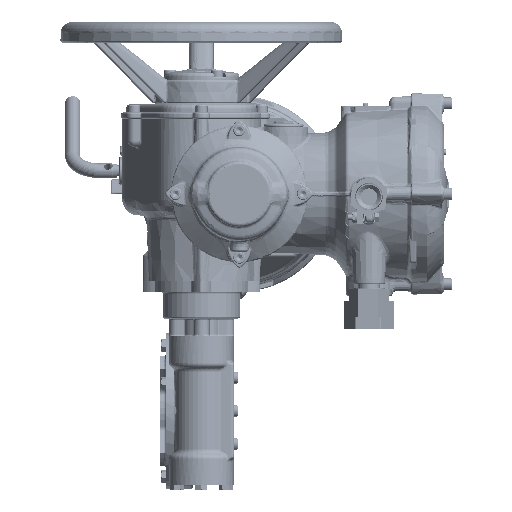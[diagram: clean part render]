
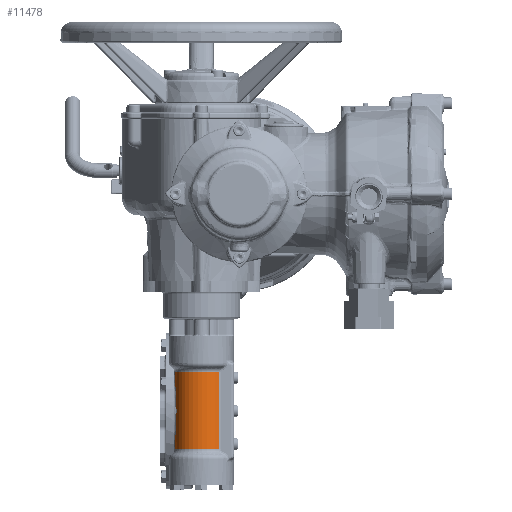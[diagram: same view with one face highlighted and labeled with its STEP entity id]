
A CAD part, left-side view. The second image highlights one B-rep face of the part: STEP entity #11478.
In plain terms, the highlighted cylindrical face has radius 29 mm (diameter 58 mm), a partial arc.
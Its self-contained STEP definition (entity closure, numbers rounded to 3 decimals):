
#11478 = ADVANCED_FACE( '', ( #28881 ), #28882, .T. );
#28881 = FACE_OUTER_BOUND( '', #127493, .T. );
#28882 = CYLINDRICAL_SURFACE( '', #127494, 29. );
#127493 = EDGE_LOOP( '', ( #366551, #366552, #366553, #366554 ) );
#127494 = AXIS2_PLACEMENT_3D( '', #366555, #366556, #366557 );
#366551 = ORIENTED_EDGE( '', *, *, #424406, .F. );
#366552 = ORIENTED_EDGE( '', *, *, #420778, .T. );
#366553 = ORIENTED_EDGE( '', *, *, #424407, .T. );
#366554 = ORIENTED_EDGE( '', *, *, #424408, .T. );
#366555 = CARTESIAN_POINT( '', ( 0., 0., -182.84 ) );
#366556 = DIRECTION( '', ( 0., 0., 1. ) );
#366557 = DIRECTION( '', ( 0., -1., 0. ) );
#420778 = EDGE_CURVE( '', #451515, #451523, #451525, .T. );
#424406 = EDGE_CURVE( '', #451515, #457315, #457316, .T. );
#424407 = EDGE_CURVE( '', #451523, #457317, #457318, .T. );
#424408 = EDGE_CURVE( '', #457317, #457315, #457319, .F. );
#451515 = VERTEX_POINT( '', #529378 );
#451523 = VERTEX_POINT( '', #529470 );
#451525 = B_SPLINE_CURVE_WITH_KNOTS( '', 3, ( #529472, #529473, #529474, #529475, #529476, #529477, #529478, #529479, #529480, #529481, #529482, #529483, #529484, #529485, #529486, #529487, #529488, #529489, #529490, #529491, #529492, #529493, #529494, #529495, #529496, #529497, #529498, #529499, #529500, #529501, #529502, #529503, #529504, #529505, #529506, #529507, #529508, #529509, #529510, #529511, #529512, #529513, #529514, #529515, #529516, #529517, #529518, #529519, #529520, #529521, #529522, #529523, #529524, #529525, #529526, #529527 ), .UNSPECIFIED., .F., .F., ( 4, 2, 2, 2, 2, 1, 1, 1, 1, 1, 2, 1, 1, 2, 2, 1, 1, 1, 1, 1, 1, 1, 1, 1, 1, 1, 2, 2, 2, 1, 1, 1, 1, 1, 1, 2, 2, 2, 2, 4 ), ( 0., 0.003, 0.005, 0.008, 0.011, 0.013, 0.016, 0.019, 0.022, 0.024, 0.027, 0.028, 0.029, 0.029, 0.029, 0.03, 0.032, 0.035, 0.038, 0.04, 0.043, 0.046, 0.049, 0.051, 0.054, 0.057, 0.059, 0.061, 0.061, 0.061, 0.062, 0.065, 0.067, 0.07, 0.073, 0.076, 0.078, 0.081, 0.084, 0.086 ), .UNSPECIFIED. );
#457315 = VERTEX_POINT( '', #557561 );
#457316 = CIRCLE( '', #557562, 29. );
#457317 = VERTEX_POINT( '', #557563 );
#457318 = CIRCLE( '', #557564, 29. );
#457319 = LINE( '', #557565, #557566 );
#529378 = CARTESIAN_POINT( '', ( -1.096, 28.979, -193.232 ) );
#529470 = CARTESIAN_POINT( '', ( -1.096, 28.979, -276.848 ) );
#529472 = CARTESIAN_POINT( '', ( -1.096, 28.979, -193.232 ) );
#529473 = CARTESIAN_POINT( '', ( -1.496, 28.964, -194.05 ) );
#529474 = CARTESIAN_POINT( '', ( -1.883, 28.941, -194.872 ) );
#529475 = CARTESIAN_POINT( '', ( -2.631, 28.883, -196.523 ) );
#529476 = CARTESIAN_POINT( '', ( -2.992, 28.847, -197.352 ) );
#529477 = CARTESIAN_POINT( '', ( -3.688, 28.767, -199.017 ) );
#529478 = CARTESIAN_POINT( '', ( -4.023, 28.721, -199.853 ) );
#529479 = CARTESIAN_POINT( '', ( -4.668, 28.624, -201.533 ) );
#529480 = CARTESIAN_POINT( '', ( -4.979, 28.571, -202.376 ) );
#529481 = CARTESIAN_POINT( '', ( -5.574, 28.461, -204.071 ) );
#529482 = CARTESIAN_POINT( '', ( -6.145, 28.346, -205.772 ) );
#529483 = CARTESIAN_POINT( '', ( -6.927, 28.164, -208.347 ) );
#529484 = CARTESIAN_POINT( '', ( -7.636, 27.979, -210.943 ) );
#529485 = CARTESIAN_POINT( '', ( -8.272, 27.797, -213.563 ) );
#529486 = CARTESIAN_POINT( '', ( -8.836, 27.623, -216.205 ) );
#529487 = CARTESIAN_POINT( '', ( -9.163, 27.515, -217.981 ) );
#529488 = CARTESIAN_POINT( '', ( -9.389, 27.438, -219.32 ) );
#529489 = CARTESIAN_POINT( '', ( -9.498, 27.401, -219.99 ) );
#529490 = CARTESIAN_POINT( '', ( -9.617, 27.359, -220.775 ) );
#529491 = CARTESIAN_POINT( '', ( -9.666, 27.342, -221.112 ) );
#529492 = CARTESIAN_POINT( '', ( -9.69, 27.333, -221.281 ) );
#529493 = CARTESIAN_POINT( '', ( -9.698, 27.33, -221.337 ) );
#529494 = CARTESIAN_POINT( '', ( -9.714, 27.325, -221.45 ) );
#529495 = CARTESIAN_POINT( '', ( -9.849, 27.277, -222.405 ) );
#529496 = CARTESIAN_POINT( '', ( -10.083, 27.191, -224.26 ) );
#529497 = CARTESIAN_POINT( '', ( -10.346, 27.092, -226.955 ) );
#529498 = CARTESIAN_POINT( '', ( -10.534, 27.019, -229.649 ) );
#529499 = CARTESIAN_POINT( '', ( -10.646, 26.975, -232.341 ) );
#529500 = CARTESIAN_POINT( '', ( -10.684, 26.96, -235.032 ) );
#529501 = CARTESIAN_POINT( '', ( -10.647, 26.975, -237.721 ) );
#529502 = CARTESIAN_POINT( '', ( -10.535, 27.019, -240.408 ) );
#529503 = CARTESIAN_POINT( '', ( -10.349, 27.091, -243.094 ) );
#529504 = CARTESIAN_POINT( '', ( -10.088, 27.19, -245.778 ) );
#529505 = CARTESIAN_POINT( '', ( -9.751, 27.312, -248.46 ) );
#529506 = CARTESIAN_POINT( '', ( -9.476, 27.409, -250.247 ) );
#529507 = CARTESIAN_POINT( '', ( -9.25, 27.485, -251.587 ) );
#529508 = CARTESIAN_POINT( '', ( -9.171, 27.512, -252.034 ) );
#529509 = CARTESIAN_POINT( '', ( -9.069, 27.546, -252.592 ) );
#529510 = CARTESIAN_POINT( '', ( -9.048, 27.552, -252.703 ) );
#529511 = CARTESIAN_POINT( '', ( -9.006, 27.566, -252.926 ) );
#529512 = CARTESIAN_POINT( '', ( -8.943, 27.587, -253.261 ) );
#529513 = CARTESIAN_POINT( '', ( -8.706, 27.663, -254.485 ) );
#529514 = CARTESIAN_POINT( '', ( -8.282, 27.795, -256.475 ) );
#529515 = CARTESIAN_POINT( '', ( -7.644, 27.977, -259.105 ) );
#529516 = CARTESIAN_POINT( '', ( -6.933, 28.162, -261.711 ) );
#529517 = CARTESIAN_POINT( '', ( -6.149, 28.345, -264.293 ) );
#529518 = CARTESIAN_POINT( '', ( -5.578, 28.46, -265.999 ) );
#529519 = CARTESIAN_POINT( '', ( -4.981, 28.571, -267.697 ) );
#529520 = CARTESIAN_POINT( '', ( -4.67, 28.623, -268.541 ) );
#529521 = CARTESIAN_POINT( '', ( -4.024, 28.721, -270.224 ) );
#529522 = CARTESIAN_POINT( '', ( -3.689, 28.767, -271.061 ) );
#529523 = CARTESIAN_POINT( '', ( -2.992, 28.847, -272.728 ) );
#529524 = CARTESIAN_POINT( '', ( -2.631, 28.883, -273.557 ) );
#529525 = CARTESIAN_POINT( '', ( -1.883, 28.941, -275.208 ) );
#529526 = CARTESIAN_POINT( '', ( -1.496, 28.964, -276.03 ) );
#529527 = CARTESIAN_POINT( '', ( -1.096, 28.979, -276.848 ) );
#557561 = CARTESIAN_POINT( '', ( -21.75, -19.182, -193.232 ) );
#557562 = AXIS2_PLACEMENT_3D( '', #659183, #659184, #659185 );
#557563 = CARTESIAN_POINT( '', ( -21.75, -19.182, -276.848 ) );
#557564 = AXIS2_PLACEMENT_3D( '', #659186, #659187, #659188 );
#557565 = CARTESIAN_POINT( '', ( -21.75, -19.182, -182.84 ) );
#557566 = VECTOR( '', #659189, 1000. );
#659183 = CARTESIAN_POINT( '', ( 0., 0., -193.232 ) );
#659184 = DIRECTION( '', ( 0., 0., 1. ) );
#659185 = DIRECTION( '', ( 0., 1., 0. ) );
#659186 = CARTESIAN_POINT( '', ( 0., 0., -276.848 ) );
#659187 = DIRECTION( '', ( 0., 0., 1. ) );
#659188 = DIRECTION( '', ( 0., 1., 0. ) );
#659189 = DIRECTION( '', ( 0., 0., -1. ) );
